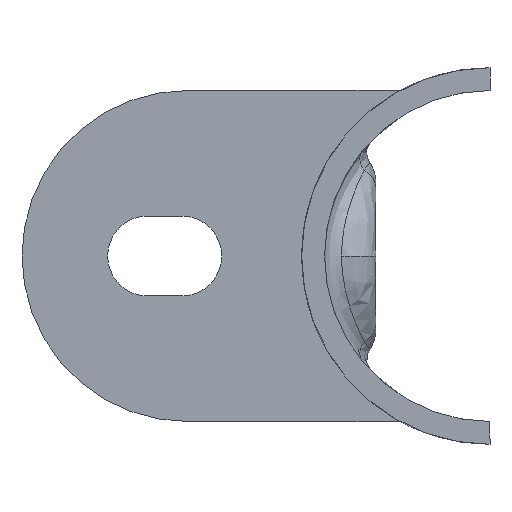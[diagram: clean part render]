
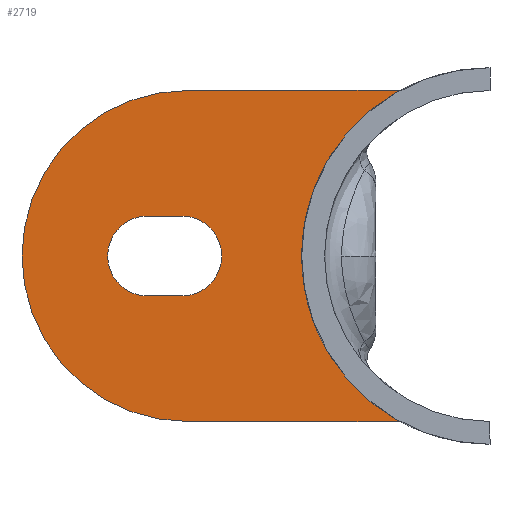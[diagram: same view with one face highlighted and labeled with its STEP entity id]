
A CAD part, left-side view. The second image highlights one B-rep face of the part: STEP entity #2719.
In plain terms, the highlighted planar face has unit normal (-1, 0, 0).
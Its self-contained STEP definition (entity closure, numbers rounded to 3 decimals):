
#11 = CIRCLE ( 'NONE', #499, 16.5 ) ;
#83 = CARTESIAN_POINT ( 'NONE',  ( 2.7, 26.5, 31. ) ) ;
#115 = EDGE_CURVE ( 'NONE', #704, #1804, #2357, .T. ) ;
#153 = CARTESIAN_POINT ( 'NONE',  ( 2.7, 26.5, 16.5 ) ) ;
#221 = DIRECTION ( 'NONE',  ( 1., 0., 0. ) ) ;
#235 = EDGE_CURVE ( 'NONE', #1804, #443, #1302, .T. ) ;
#269 = VECTOR ( 'NONE', #2015, 1000. ) ;
#274 = VECTOR ( 'NONE', #2615, 1000. ) ;
#334 = EDGE_LOOP ( 'NONE', ( #2682, #1957, #782, #2546, #1647, #2076, #1202, #1459, #1189, #746 ) ) ;
#384 = EDGE_CURVE ( 'NONE', #1577, #2386, #2514, .T. ) ;
#443 = VERTEX_POINT ( 'NONE', #1188 ) ;
#466 = CARTESIAN_POINT ( 'NONE',  ( 2.7, 26.5, 16.5 ) ) ;
#495 = EDGE_CURVE ( 'NONE', #2766, #2762, #717, .T. ) ;
#499 = AXIS2_PLACEMENT_3D ( 'NONE', #2244, #221, #2636 ) ;
#599 = CARTESIAN_POINT ( 'NONE',  ( 2.7, 12.3, 20.25 ) ) ;
#606 = VERTEX_POINT ( 'NONE', #756 ) ;
#633 = AXIS2_PLACEMENT_3D ( 'NONE', #466, #810, #1274 ) ;
#643 = DIRECTION ( 'NONE',  ( 0., 0., -1. ) ) ;
#654 = CARTESIAN_POINT ( 'NONE',  ( 2.7, 27., 13. ) ) ;
#704 = VERTEX_POINT ( 'NONE', #1855 ) ;
#716 = AXIS2_PLACEMENT_3D ( 'NONE', #153, #1525, #2927 ) ;
#717 = CIRCLE ( 'NONE', #2280, 1. ) ;
#719 = CARTESIAN_POINT ( 'NONE',  ( 2.7, 13.911, 7.627 ) ) ;
#746 = ORIENTED_EDGE ( 'NONE', *, *, #235, .F. ) ;
#756 = CARTESIAN_POINT ( 'NONE',  ( 2.7, 7.874, 31. ) ) ;
#760 = VERTEX_POINT ( 'NONE', #599 ) ;
#762 = DIRECTION ( 'NONE',  ( 0., 1., 0. ) ) ;
#767 = EDGE_CURVE ( 'NONE', #1924, #2766, #1990, .T. ) ;
#770 = DIRECTION ( 'NONE',  ( -1., 0., 0. ) ) ;
#782 = ORIENTED_EDGE ( 'NONE', *, *, #767, .T. ) ;
#806 = CARTESIAN_POINT ( 'NONE',  ( 2.7, 30., 20. ) ) ;
#808 = CARTESIAN_POINT ( 'NONE',  ( 2.7, 12.82, 21.127 ) ) ;
#810 = DIRECTION ( 'NONE',  ( 1., 0., 0. ) ) ;
#814 = DIRECTION ( 'NONE',  ( 1., 0., 0. ) ) ;
#903 = CARTESIAN_POINT ( 'NONE',  ( 2.7, 13.911, 25.373 ) ) ;
#951 = DIRECTION ( 'NONE',  ( 0., 0., -1. ) ) ;
#958 = VERTEX_POINT ( 'NONE', #808 ) ;
#964 = LINE ( 'NONE', #83, #2422 ) ;
#978 = CARTESIAN_POINT ( 'NONE',  ( 2.7, 12.3, 12.75 ) ) ;
#983 = AXIS2_PLACEMENT_3D ( 'NONE', #1059, #2590, #2381 ) ;
#1059 = CARTESIAN_POINT ( 'NONE',  ( 2.7, 0., 16.5 ) ) ;
#1123 = CARTESIAN_POINT ( 'NONE',  ( 2.7, 30., 13. ) ) ;
#1152 = PLANE ( 'NONE',  #633 ) ;
#1188 = CARTESIAN_POINT ( 'NONE',  ( 2.7, 26.5, 31. ) ) ;
#1189 = ORIENTED_EDGE ( 'NONE', *, *, #2724, .F. ) ;
#1194 = ORIENTED_EDGE ( 'NONE', *, *, #1928, .T. ) ;
#1200 = CARTESIAN_POINT ( 'NONE',  ( 2.7, 30., 16.5 ) ) ;
#1202 = ORIENTED_EDGE ( 'NONE', *, *, #1944, .T. ) ;
#1210 = AXIS2_PLACEMENT_3D ( 'NONE', #2519, #2534, #2269 ) ;
#1217 = CARTESIAN_POINT ( 'NONE',  ( 2.7, 30., 13. ) ) ;
#1231 = CARTESIAN_POINT ( 'NONE',  ( 2.7, 27., 16.5 ) ) ;
#1257 = CIRCLE ( 'NONE', #1417, 3.5 ) ;
#1274 = DIRECTION ( 'NONE',  ( 0., 0., -1. ) ) ;
#1276 = EDGE_CURVE ( 'NONE', #2762, #760, #2652, .T. ) ;
#1284 = DIRECTION ( 'NONE',  ( 0., 0., -1. ) ) ;
#1302 = CIRCLE ( 'NONE', #716, 14.5 ) ;
#1390 = CARTESIAN_POINT ( 'NONE',  ( 2.7, 27., 20. ) ) ;
#1417 = AXIS2_PLACEMENT_3D ( 'NONE', #1231, #2742, #1759 ) ;
#1428 = EDGE_CURVE ( 'NONE', #2918, #1577, #2806, .T. ) ;
#1437 = CIRCLE ( 'NONE', #983, 16.5 ) ;
#1459 = ORIENTED_EDGE ( 'NONE', *, *, #2342, .T. ) ;
#1525 = DIRECTION ( 'NONE',  ( 1., 0., 0. ) ) ;
#1540 = DIRECTION ( 'NONE',  ( 0., 0., -1. ) ) ;
#1565 = FACE_BOUND ( 'NONE', #2694, .T. ) ;
#1577 = VERTEX_POINT ( 'NONE', #1123 ) ;
#1643 = VERTEX_POINT ( 'NONE', #903 ) ;
#1647 = ORIENTED_EDGE ( 'NONE', *, *, #1276, .T. ) ;
#1667 = AXIS2_PLACEMENT_3D ( 'NONE', #1200, #2598, #951 ) ;
#1700 = FACE_OUTER_BOUND ( 'NONE', #334, .T. ) ;
#1717 = EDGE_CURVE ( 'NONE', #704, #1924, #11, .T. ) ;
#1759 = DIRECTION ( 'NONE',  ( 0., 0., -1. ) ) ;
#1778 = ORIENTED_EDGE ( 'NONE', *, *, #2882, .T. ) ;
#1804 = VERTEX_POINT ( 'NONE', #2115 ) ;
#1817 = CARTESIAN_POINT ( 'NONE',  ( 2.7, 12.82, 11.873 ) ) ;
#1855 = CARTESIAN_POINT ( 'NONE',  ( 2.7, 7.874, 2. ) ) ;
#1924 = VERTEX_POINT ( 'NONE', #719 ) ;
#1928 = EDGE_CURVE ( 'NONE', #2386, #2205, #2229, .T. ) ;
#1944 = EDGE_CURVE ( 'NONE', #958, #1643, #2451, .T. ) ;
#1957 = ORIENTED_EDGE ( 'NONE', *, *, #1717, .T. ) ;
#1978 = CARTESIAN_POINT ( 'NONE',  ( 2.7, 12.3, 12.75 ) ) ;
#1990 = CIRCLE ( 'NONE', #2221, 3. ) ;
#2015 = DIRECTION ( 'NONE',  ( 0., 0., 1. ) ) ;
#2023 = ORIENTED_EDGE ( 'NONE', *, *, #1428, .T. ) ;
#2063 = VECTOR ( 'NONE', #762, 1000. ) ;
#2076 = ORIENTED_EDGE ( 'NONE', *, *, #2202, .T. ) ;
#2100 = CARTESIAN_POINT ( 'NONE',  ( 2.7, 11.382, 23.76 ) ) ;
#2115 = CARTESIAN_POINT ( 'NONE',  ( 2.7, 26.5, 2. ) ) ;
#2202 = EDGE_CURVE ( 'NONE', #760, #958, #2846, .T. ) ;
#2205 = VERTEX_POINT ( 'NONE', #1390 ) ;
#2221 = AXIS2_PLACEMENT_3D ( 'NONE', #2699, #2940, #1540 ) ;
#2229 = LINE ( 'NONE', #2294, #2401 ) ;
#2244 = CARTESIAN_POINT ( 'NONE',  ( 2.7, 0., 16.5 ) ) ;
#2269 = DIRECTION ( 'NONE',  ( 0., 0., -1. ) ) ;
#2280 = AXIS2_PLACEMENT_3D ( 'NONE', #2720, #770, #643 ) ;
#2294 = CARTESIAN_POINT ( 'NONE',  ( 2.7, 30., 20. ) ) ;
#2340 = DIRECTION ( 'NONE',  ( 0., -1., 0. ) ) ;
#2342 = EDGE_CURVE ( 'NONE', #1643, #606, #1437, .T. ) ;
#2357 = LINE ( 'NONE', #2865, #2063 ) ;
#2381 = DIRECTION ( 'NONE',  ( 0., 0., -1. ) ) ;
#2386 = VERTEX_POINT ( 'NONE', #806 ) ;
#2401 = VECTOR ( 'NONE', #2340, 1000. ) ;
#2422 = VECTOR ( 'NONE', #2572, 1000. ) ;
#2451 = CIRCLE ( 'NONE', #2995, 3. ) ;
#2514 = CIRCLE ( 'NONE', #1667, 3.5 ) ;
#2519 = CARTESIAN_POINT ( 'NONE',  ( 2.7, 13.3, 20.25 ) ) ;
#2534 = DIRECTION ( 'NONE',  ( -1., 0., 0. ) ) ;
#2546 = ORIENTED_EDGE ( 'NONE', *, *, #495, .T. ) ;
#2572 = DIRECTION ( 'NONE',  ( 0., -1., 0. ) ) ;
#2590 = DIRECTION ( 'NONE',  ( 1., 0., 0. ) ) ;
#2598 = DIRECTION ( 'NONE',  ( 1., 0., 0. ) ) ;
#2615 = DIRECTION ( 'NONE',  ( 0., 1., 0. ) ) ;
#2636 = DIRECTION ( 'NONE',  ( 0., 0., -1. ) ) ;
#2652 = LINE ( 'NONE', #1978, #269 ) ;
#2682 = ORIENTED_EDGE ( 'NONE', *, *, #115, .F. ) ;
#2694 = EDGE_LOOP ( 'NONE', ( #2023, #2796, #1194, #1778 ) ) ;
#2699 = CARTESIAN_POINT ( 'NONE',  ( 2.7, 11.382, 9.24 ) ) ;
#2719 = ADVANCED_FACE ( 'NONE', ( #1565, #1700 ), #1152, .F. ) ;
#2720 = CARTESIAN_POINT ( 'NONE',  ( 2.7, 13.3, 12.75 ) ) ;
#2724 = EDGE_CURVE ( 'NONE', #443, #606, #964, .T. ) ;
#2742 = DIRECTION ( 'NONE',  ( 1., 0., 0. ) ) ;
#2762 = VERTEX_POINT ( 'NONE', #978 ) ;
#2766 = VERTEX_POINT ( 'NONE', #1817 ) ;
#2796 = ORIENTED_EDGE ( 'NONE', *, *, #384, .T. ) ;
#2806 = LINE ( 'NONE', #1217, #274 ) ;
#2846 = CIRCLE ( 'NONE', #1210, 1. ) ;
#2865 = CARTESIAN_POINT ( 'NONE',  ( 2.7, 4.5, 2. ) ) ;
#2882 = EDGE_CURVE ( 'NONE', #2205, #2918, #1257, .T. ) ;
#2918 = VERTEX_POINT ( 'NONE', #654 ) ;
#2927 = DIRECTION ( 'NONE',  ( 0., 0., -1. ) ) ;
#2940 = DIRECTION ( 'NONE',  ( 1., 0., 0. ) ) ;
#2995 = AXIS2_PLACEMENT_3D ( 'NONE', #2100, #814, #1284 ) ;
